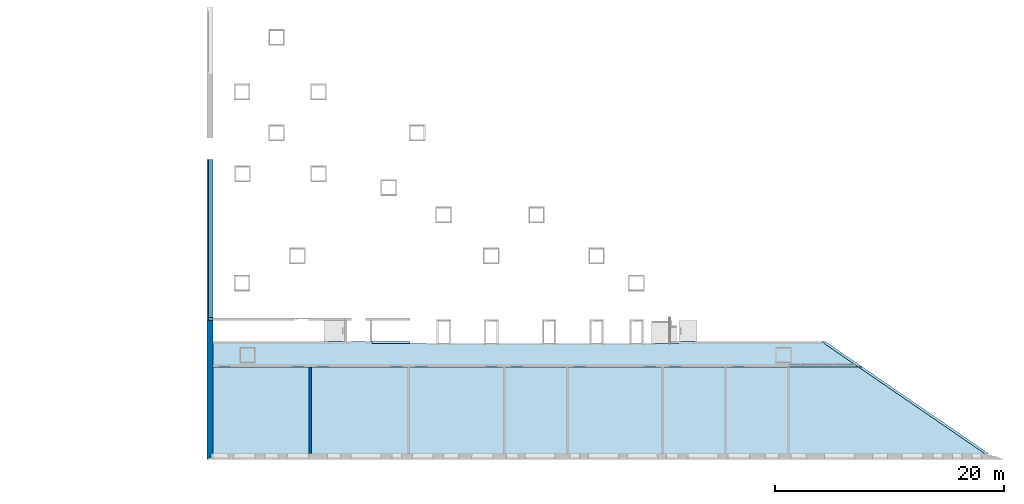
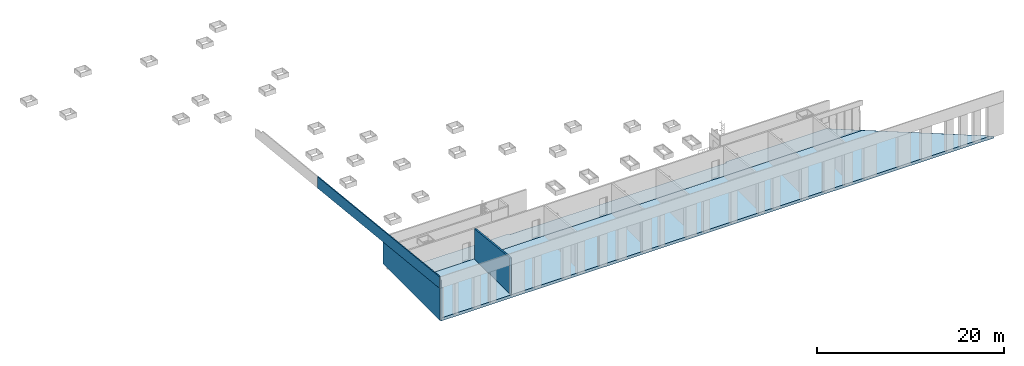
# One storey, part 4 of 23: 3 walls, 2 slabs.
"""IFC2X3 building model written with IfcOpenShell, lengths in millimetres."""

from ifc_helpers import new_model, entity, si_unit, converted_unit, derived_unit, money_unit, direction, frame, origin_with_axes, place, context, subcontext, project, spatial, faceted_brep, material, material_list, type_object, element, save


model = new_model("IFC2X3")

# Units and contexts
model_context = context("Model", 3, precision=0.01, world=origin_with_axes(), true_north=direction((0.0, 1.0)))
body_context = subcontext(model_context, "Body", "Model", "MODEL_VIEW")
ifc_project = project(units=[si_unit("LENGTHUNIT", "METRE", prefix="MILLI"), si_unit("AREAUNIT", "SQUARE_METRE"), si_unit("VOLUMEUNIT", "CUBIC_METRE"), converted_unit("PLANEANGLEUNIT", "DEGREE", entity("IfcPlaneAngleMeasure", 0.0174532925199), si_unit("PLANEANGLEUNIT", "RADIAN"), dimensions=[0, 0, 0, 0, 0, 0, 0]), si_unit("SOLIDANGLEUNIT", "STERADIAN"), money_unit("EUR"), converted_unit("TIMEUNIT", "Year", entity("IfcTimeMeasure", 31556926.0), si_unit("TIMEUNIT", "SECOND"), dimensions=[0, 0, 1, 0, 0, 0, 0]), si_unit("MASSUNIT", "GRAM", prefix="KILO"), si_unit("THERMODYNAMICTEMPERATUREUNIT", "DEGREE_CELSIUS"), si_unit("LUMINOUSINTENSITYUNIT", "LUMEN"), si_unit("ENERGYUNIT", "JOULE", prefix="MEGA"), derived_unit("THERMALCONDUCTANCEUNIT", [(si_unit("POWERUNIT", "WATT"), 1), (si_unit("LENGTHUNIT", "METRE"), -1), (si_unit("THERMODYNAMICTEMPERATUREUNIT", "KELVIN"), -1)]), derived_unit("SPECIFICHEATCAPACITYUNIT", [(si_unit("ENERGYUNIT", "JOULE"), 1), (si_unit("MASSUNIT", "GRAM", prefix="KILO"), -1), (si_unit("THERMODYNAMICTEMPERATUREUNIT", "KELVIN"), -1)]), derived_unit("MASSDENSITYUNIT", [(si_unit("MASSUNIT", "GRAM", prefix="KILO"), 1), (si_unit("VOLUMEUNIT", "CUBIC_METRE"), -1)])], contexts=[model_context])

# Site, building, storey
site_placement = place(None, origin_with_axes())
site = spatial("IfcSite", under=ifc_project, at=site_placement, Name="L.Koidula tn 11b", CompositionType="ELEMENT")
building_placement = place(site_placement, origin_with_axes())
building = spatial("IfcBuilding", under=site, at=building_placement, Name="Rakvere Riigigümnaasium", CompositionType="ELEMENT")
storey_placement = place(building_placement, frame((0.0, 0.0, 7440.0), z_axis=(0.0, 0.0, 1.0), x_axis=(1.0, 0.0, 0.0)))
storey = spatial("IfcBuildingStorey", under=building, at=storey_placement, Name="3.korrus +7,44", CompositionType="ELEMENT", Elevation=7440.0)

# Slabs
ifc_material_1 = material(Name="Parkett")
ifc_material_2 = material(Name="Betoon")
ifc_material_3 = material(Name="Mürasummutus vill")
ifc_material_4 = material(Name="Betoon õõnespaneel")
ifc_material_list_1 = material_list([ifc_material_1, ifc_material_2, ifc_material_3, ifc_material_4])
slab_type_1 = type_object("IfcSlabType", Name="VL-01 395", PredefinedType="NOTDEFINED")
slab_1_placement = place(storey_placement, frame((92196.3481277, 13080.4543717, 0.0), z_axis=(0.0, 0.0, 1.0), x_axis=(1.0, 0.0, 0.0)))
element("IfcSlab", 1, at=slab_1_placement, inside=storey, type_object=slab_type_1, material=ifc_material_list_1, Name="Vahelagi", PredefinedType="NOTDEFINED", context=body_context, shape_type="Brep", body=[
    faceted_brep([(-353.567938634, 0.0, -10.0), (-353.567938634, 0.0, 0.0), (-56896.3480918, 0.0, 0.0), (-56896.3480918, 0.0, -10.0), (-3590.33016853, 2220.02536922, 0.0), (-3590.33016853, 2220.02536922, -10.0), (-16006.365986, 2220.01632413, 0.0), (-16006.3659216, 2020.02395291, 0.0), (-38896.3481322, 2020.00113962, 0.0), (-38896.3481322, 2020.02415849, 0.0), (-39496.348134, 2020.02415849, 0.0), (-39696.348134, 2020.02415841, 0.0), (-42796.3481341, 2020.02415849, 0.0), (-42796.3481341, 2219.27740486, 0.0), (-44996.3481399, 2219.27740486, 0.0), (-44996.3481399, 2220.02143424, 0.0), (-56696.3480756, 2220.02415849, 0.0), (-56696.3480756, 2020.02415849, 0.0), (-56896.3480756, 2020.02415849, 0.0), (-56896.3480756, 2020.02415849, -10.0), (-56696.3480756, 2020.02415849, -10.0), (-56696.3480756, 2220.02415849, -10.0), (-44996.3481399, 2220.02143424, -10.0), (-44996.3481399, 2219.27740486, -10.0), (-42796.3481341, 2219.27740486, -10.0), (-42796.3481341, 2020.02415849, -10.0), (-39696.348134, 2020.02415841, -10.0), (-39496.348134, 2020.02415849, -10.0), (-38896.3481322, 2020.02415849, -10.0), (-38896.3481322, 2020.00113962, -10.0), (-16006.3659216, 2020.02395291, -10.0), (-16006.365986, 2220.01632413, -10.0)], [[[0, 1, 2, 3]], [[4, 1, 0, 5]], [[1, 4, 6, 7, 8, 9, 10, 11, 12, 13, 14, 15, 16, 17, 18, 2]], [[18, 19, 3, 2]], [[5, 0, 3, 19, 20, 21, 22, 23, 24, 25, 26, 27, 28, 29, 30, 31]], [[4, 5, 31, 6]], [[31, 30, 7, 6]], [[7, 30, 29, 8]], [[29, 28, 9, 8]], [[27, 10, 9, 28]], [[26, 11, 10, 27]], [[12, 11, 26, 25]], [[24, 13, 12, 25]], [[13, 24, 23, 14]], [[23, 22, 15, 14]], [[22, 21, 16, 15]], [[17, 16, 21, 20]], [[18, 17, 20, 19]]]),
    faceted_brep([(-353.567938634, 0.0, -100.0), (-353.567938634, 0.0, -10.0), (-56896.3480918, 0.0, -10.0), (-56896.3480918, 0.0, -100.0), (-3590.33016853, 2220.02536922, -10.0), (-3590.33016853, 2220.02536922, -100.0), (-16006.365986, 2220.01632413, -10.0), (-16006.3659216, 2020.02395291, -10.0), (-38896.3481322, 2020.00113962, -10.0), (-38896.3481322, 2020.02415849, -10.0), (-39496.348134, 2020.02415849, -10.0), (-39696.348134, 2020.02415841, -10.0), (-42796.3481341, 2020.02415849, -10.0), (-42796.3481341, 2219.27740486, -10.0), (-44996.3481399, 2219.27740486, -10.0), (-44996.3481399, 2220.02143424, -10.0), (-56696.3480756, 2220.02415849, -10.0), (-56696.3480756, 2020.02415849, -10.0), (-56896.3480756, 2020.02415849, -10.0), (-56896.3480756, 2020.02415849, -100.0), (-56696.3480756, 2020.02415849, -100.0), (-56696.3480756, 2220.02415849, -100.0), (-44996.3481399, 2220.02143424, -100.0), (-44996.3481399, 2219.27740486, -100.0), (-42796.3481341, 2219.27740486, -100.0), (-42796.3481341, 2020.02415849, -100.0), (-39696.348134, 2020.02415842, -100.0), (-39496.348134, 2020.02415849, -100.0), (-38896.3481322, 2020.02415849, -100.0), (-38896.3481322, 2020.00113962, -100.0), (-16006.3659216, 2020.02395291, -100.0), (-16006.365986, 2220.01632413, -100.0)], [[[0, 1, 2, 3]], [[4, 1, 0, 5]], [[1, 4, 6, 7, 8, 9, 10, 11, 12, 13, 14, 15, 16, 17, 18, 2]], [[18, 19, 3, 2]], [[5, 0, 3, 19, 20, 21, 22, 23, 24, 25, 26, 27, 28, 29, 30, 31]], [[4, 5, 31, 6]], [[31, 30, 7, 6]], [[7, 30, 29, 8]], [[29, 28, 9, 8]], [[27, 10, 9, 28]], [[26, 11, 10, 27]], [[12, 11, 26, 25]], [[24, 13, 12, 25]], [[13, 24, 23, 14]], [[23, 22, 15, 14]], [[22, 21, 16, 15]], [[17, 16, 21, 20]], [[18, 17, 20, 19]]]),
    faceted_brep([(-353.567938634, 0.0, -130.0), (-353.567938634, 0.0, -100.0), (-56896.3480918, 0.0, -100.0), (-56896.3480918, 0.0, -130.0), (-3590.33016853, 2220.02536922, -100.0), (-3590.33016853, 2220.02536922, -130.0), (-16006.365986, 2220.01632413, -100.0), (-16006.3659216, 2020.02395291, -100.0), (-38896.3481322, 2020.00113962, -100.0), (-38896.3481322, 2020.02415849, -100.0), (-39496.348134, 2020.02415849, -100.0), (-39696.348134, 2020.02415842, -100.0), (-42796.3481341, 2020.02415849, -100.0), (-42796.3481341, 2219.27740486, -100.0), (-44996.3481399, 2219.27740486, -100.0), (-44996.3481399, 2220.02143424, -100.0), (-56696.3480756, 2220.02415849, -100.0), (-56696.3480756, 2020.02415849, -100.0), (-56896.3480756, 2020.02415849, -100.0), (-56896.3480756, 2020.02415849, -130.0), (-56696.3480756, 2020.02415849, -130.0), (-56696.3480756, 2220.02415849, -130.0), (-44996.3481399, 2220.02143424, -130.0), (-44996.3481399, 2219.27740486, -130.0), (-42796.3481341, 2219.27740486, -130.0), (-42796.3481341, 2020.02415849, -130.0), (-39696.348134, 2020.02415842, -130.0), (-39496.348134, 2020.02415849, -130.0), (-38896.3481322, 2020.02415849, -130.0), (-38896.3481322, 2020.00113962, -130.0), (-16006.3659216, 2020.02395291, -130.0), (-16006.365986, 2220.01632413, -130.0)], [[[0, 1, 2, 3]], [[4, 1, 0, 5]], [[1, 4, 6, 7, 8, 9, 10, 11, 12, 13, 14, 15, 16, 17, 18, 2]], [[18, 19, 3, 2]], [[5, 0, 3, 19, 20, 21, 22, 23, 24, 25, 26, 27, 28, 29, 30, 31]], [[4, 5, 31, 6]], [[31, 30, 7, 6]], [[7, 30, 29, 8]], [[29, 28, 9, 8]], [[27, 10, 9, 28]], [[26, 11, 10, 27]], [[12, 11, 26, 25]], [[24, 13, 12, 25]], [[13, 24, 23, 14]], [[23, 22, 15, 14]], [[22, 21, 16, 15]], [[17, 16, 21, 20]], [[18, 17, 20, 19]]]),
    faceted_brep([(-56696.3480756, 2220.02415849, -130.0), (-44996.3481399, 2220.02143424, -130.0), (-44996.3481399, 2220.02143424, -395.0), (-56696.3480756, 2220.02415849, -395.0), (-56696.3480756, 2020.02415849, -130.0), (-56896.3480756, 2020.02415849, -130.0), (-56896.3480918, 0.0, -130.0), (0.0, 0.0, -130.0), (-3236.76716374, 2220.02562679, -130.0), (-16006.365986, 2220.01632413, -130.0), (-16006.3659216, 2020.02395291, -130.0), (-38896.3481322, 2020.00113962, -130.0), (-38896.3481322, 2020.02415849, -130.0), (-39496.348134, 2020.02415849, -130.0), (-39496.348134, 2219.27740486, -130.0), (-44996.3481399, 2219.27740486, -130.0), (-44996.3481399, 2219.27740486, -395.0), (-56896.3480756, 2020.02415849, -395.0), (-56696.3480756, 2020.02415849, -395.0), (-39496.348134, 2219.27740486, -395.0), (-39496.348134, 2020.02415849, -395.0), (-38896.3481322, 2020.02415849, -395.0), (-38896.3481322, 2020.00113962, -395.0), (-16006.3659216, 2020.02395291, -395.0), (-16006.365986, 2220.01632413, -395.0), (-3236.76716374, 2220.02562679, -395.0), (0.0, 0.0, -395.0), (-56896.3480918, 0.0, -395.0)], [[[0, 1, 2, 3]], [[0, 4, 5, 6, 7, 8, 9, 10, 11, 12, 13, 14, 15, 1]], [[1, 15, 16, 2]], [[17, 18, 3, 2, 16, 19, 20, 21, 22, 23, 24, 25, 26, 27]], [[18, 4, 0, 3]], [[17, 5, 4, 18]], [[6, 5, 17, 27]], [[7, 6, 27, 26]], [[8, 7, 26, 25]], [[9, 8, 25, 24]], [[10, 9, 24, 23]], [[11, 10, 23, 22]], [[12, 11, 22, 21]], [[13, 12, 21, 20]], [[14, 13, 20, 19]], [[15, 14, 19, 16]]]),
])
ifc_material_5 = material(Name="PVC-klassid")
ifc_material_6 = material(Name="Betoon - pealevalu")
ifc_material_list_2 = material_list([ifc_material_5, ifc_material_6, ifc_material_2, ifc_material_3, ifc_material_4])
slab_type_2 = type_object("IfcSlabType", Name="VL-01-1 395", PredefinedType="NOTDEFINED")
slab_2_placement = place(storey_placement, frame((35299.9999991, 5300.45553887, 0.0), z_axis=(0.0, 0.0, 1.0), x_axis=(1.0, 0.0, 0.0)))
element("IfcSlab", 2, at=slab_2_placement, inside=storey, type_object=slab_type_2, material=ifc_material_list_2, Name="Vahelagi", PredefinedType="NOTDEFINED", context=body_context, shape_type="Brep", body=[
    faceted_brep([(67885.9190927, 0.0, -5.0), (56542.78019, 7779.99883287, -5.0), (56542.78019, 7779.99883287, 0.0), (67885.9190927, 0.0, 0.0), (0.0, 0.0, -5.0), (3.68757326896e-05, 7779.99883287, -5.0), (3.68757326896e-05, 7779.99883287, 0.0), (0.0, 0.0, 0.0)], [[[0, 1, 2, 3]], [[1, 0, 4, 5]], [[2, 1, 5, 6]], [[2, 6, 7, 3]], [[0, 3, 7, 4]], [[5, 4, 7, 6]]]),
    faceted_brep([(67885.9190927, 0.0, -10.0), (56542.78019, 7779.99883287, -10.0), (56542.78019, 7779.99883287, -5.0), (67885.9190927, 0.0, -5.0), (0.0, 0.0, -10.0), (3.68757326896e-05, 7779.99883287, -10.0), (3.68757326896e-05, 7779.99883287, -5.0), (0.0, 0.0, -5.0)], [[[0, 1, 2, 3]], [[1, 0, 4, 5]], [[2, 1, 5, 6]], [[2, 6, 7, 3]], [[0, 3, 7, 4]], [[5, 4, 7, 6]]]),
    faceted_brep([(67885.9190927, 0.0, -100.0), (56542.78019, 7779.99883287, -100.0), (56542.78019, 7779.99883287, -10.0), (67885.9190927, 0.0, -10.0), (0.0, 0.0, -100.0), (3.68757326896e-05, 7779.99883287, -100.0), (3.68757326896e-05, 7779.99883287, -10.0), (0.0, 0.0, -10.0)], [[[0, 1, 2, 3]], [[1, 0, 4, 5]], [[2, 1, 5, 6]], [[2, 6, 7, 3]], [[0, 3, 7, 4]], [[5, 4, 7, 6]]]),
    faceted_brep([(67885.9190928, 0.0, -130.0), (56542.78019, 7779.99883287, -130.0), (56542.78019, 7779.99883287, -100.0), (67885.9190927, 0.0, -100.0), (0.0, 0.0, -130.0), (3.68757326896e-05, 7779.99883287, -130.0), (3.68757326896e-05, 7779.99883287, -100.0), (0.0, 0.0, -100.0)], [[[0, 1, 2, 3]], [[1, 0, 4, 5]], [[2, 1, 5, 6]], [[2, 6, 7, 3]], [[0, 3, 7, 4]], [[5, 4, 7, 6]]]),
    faceted_brep([(0.0, 0.0, -130.0), (0.0, 0.0, -395.0), (68239.4805918, 0.0, -395.0), (68239.4805918, 0.0, -130.0), (3.68757326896e-05, 7779.99883287, -130.0), (3.68757326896e-05, 7779.99883287, -395.0), (56896.3481287, 7779.99883287, -395.0), (56896.3481287, 7779.99883287, -130.0)], [[[0, 1, 2, 3]], [[4, 5, 1, 0]], [[2, 1, 5, 6]], [[3, 2, 6, 7]], [[4, 0, 3, 7]], [[7, 6, 5, 4]]]),
])

# Walls
ifc_material_7 = material(Name="Betoon-element")
ifc_material_8 = material(Name="FF-PIR soojustus")
ifc_material_9 = material(Name="Tuuletõke (RKL Facade)")
ifc_material_10 = material(Name="Salto-roovitus")
ifc_material_11 = material(Name="Puit-fassaad")
ifc_material_list_3 = material_list([ifc_material_7, ifc_material_8, ifc_material_9, ifc_material_10, ifc_material_10, ifc_material_11])
wall_type_1 = type_object("IfcWallType", Name="VS-01 514", PredefinedType="NOTDEFINED")
wall_1_placement = place(storey_placement, frame((35500.0000521, 17100.4555216, 0.0), z_axis=(0.0, 0.0, 1.0), x_axis=(0.0, -1.0, 0.0)))
element("IfcWall", 3, at=wall_1_placement, inside=storey, type_object=wall_type_1, material=ifc_material_list_3, Name="Välissein", context=body_context, shape_type="Brep", body=[
    faceted_brep([(0.0, -200.0, 2881.73975441), (0.0, 0.0, 2881.73975441), (0.0, 0.0, 0.0), (0.0, -200.0, 0.0), (11599.9999827, 4.11310452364e-06, 4100.94888168), (11599.9999827, -200.0, 4100.94888168), (11599.9999827, 0.0, 0.0), (11599.9999827, -200.0, 0.0)], [[[0, 1, 2, 3]], [[4, 1, 0, 5]], [[1, 4, 6, 2]], [[3, 2, 6, 7]], [[5, 0, 3, 7]], [[4, 5, 7, 6]]]),
    faceted_brep([(0.0, -380.0, 2881.73975441), (0.0, -200.0, 2881.73975441), (0.0, -200.0, 0.0), (0.0, -380.0, 0.0), (11979.9999827, -200.0, 4140.88849108), (11979.9999827, -380.0, 4140.88849108), (11979.9999827, -200.0, 0.0), (11979.9999827, -380.0, 0.0)], [[[0, 1, 2, 3]], [[4, 1, 0, 5]], [[1, 4, 6, 2]], [[6, 7, 3, 2]], [[5, 0, 3, 7]], [[4, 5, 7, 6]]]),
    faceted_brep([(0.0, -430.0, 2881.73975441), (0.0, -380.0, 2881.73975441), (0.0, -380.0, 0.0), (0.0, -430.0, 0.0), (12029.9999827, -380.0, 4146.14370284), (12029.9999827, -430.0, 4146.14370284), (12029.9999827, -380.0, 0.0), (12029.9999827, -430.0, 0.0)], [[[0, 1, 2, 3]], [[4, 1, 0, 5]], [[1, 4, 6, 2]], [[3, 2, 6, 7]], [[5, 0, 3, 7]], [[4, 5, 7, 6]]]),
    faceted_brep([(0.0, -462.0, 2881.73975441), (0.0, -430.0, 2881.73975441), (0.0, -430.0, 0.0), (0.0, -462.0, 0.0), (12061.9999827, -430.0, 4149.50703837), (12061.9999827, -462.0, 4149.50703837), (12061.9999827, -430.0, 0.0), (12061.9999827, -462.0, 0.0)], [[[0, 1, 2, 3]], [[4, 1, 0, 5]], [[1, 4, 6, 2]], [[2, 6, 7, 3]], [[5, 0, 3, 7]], [[4, 5, 7, 6]]]),
    faceted_brep([(0.0, -494.0, 2881.73975441), (0.0, -462.0, 2881.73975441), (0.0, -462.0, 0.0), (0.0, -494.0, 0.0), (12093.9999827, -462.0, 4152.8703739), (12093.9999827, -494.0, 4152.8703739), (12093.9999827, -462.0, 0.0), (12093.9999827, -494.0, 0.0)], [[[0, 1, 2, 3]], [[4, 1, 0, 5]], [[1, 4, 6, 2]], [[2, 6, 7, 3]], [[5, 0, 3, 7]], [[4, 5, 7, 6]]]),
    faceted_brep([(0.0, -514.0, 2881.73975441), (0.0, -494.0, 2881.73975441), (0.0, -494.0, 0.0), (0.0, -514.0, 0.0), (12113.9999827, -494.0, 4154.9724586), (12113.9999827, -514.0, 4154.9724586), (12113.9999827, -494.0, 0.0), (12113.9999827, -514.0, 0.0)], [[[0, 1, 2, 3]], [[4, 1, 0, 5]], [[1, 4, 6, 2]], [[2, 6, 7, 3]], [[5, 0, 3, 7]], [[4, 5, 7, 6]]]),
])
ifc_material_12 = material(Name="Roovid-puit")
ifc_material_list_4 = material_list([ifc_material_7, ifc_material_8, ifc_material_9, ifc_material_12, ifc_material_12, ifc_material_12])
wall_type_2 = type_object("IfcWallType", Name="VS-09-1 526", PredefinedType="NOTDEFINED")
wall_2_placement = place(storey_placement, frame((35500.0000521, 31167.424765, 1070.29900037), z_axis=(0.0, 0.0, 1.0), x_axis=(0.0, -1.0, 0.0)))
element("IfcWall", 4, at=wall_2_placement, inside=storey, type_object=wall_type_2, material=ifc_material_list_4, Name="Välissein", context=body_context, shape_type="Brep", body=[
    faceted_brep([(0.0, -200.0, 332.942709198), (0.0, -200.0, 923.393341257), (0.0, 0.0, 923.390305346), (0.0, 0.0, 332.942709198), (13786.2564718, -199.999999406, 2427.68989319), (13786.2564718, -199.999999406, 2372.3872698), (25666.9692262, -200.000001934, 3030.6498813), (25666.9692262, -200.000000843, 3676.4034403), (13786.2564718, 0.0, 2372.38423388), (13786.2564718, 0.0, 2427.68686302), (25666.9692262, -4.79371209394e-06, 3676.40040439), (25666.9692262, -6.86459600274e-06, 3089.70099963), (25666.9692262, -6.86459600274e-06, 3030.6498813)], [[[0, 1, 2, 3]], [[4, 5, 1, 0, 6, 7]], [[5, 8, 2, 1]], [[2, 8, 9, 10, 11, 12, 3]], [[3, 12, 6, 0]], [[5, 4, 9, 8]], [[7, 6, 12, 11, 10]], [[10, 9, 4, 7]]]),
    faceted_brep([(0.0, -380.0, 332.942709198), (-4.0692782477e-08, -380.025875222, 923.396073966), (0.0, -200.0, 923.393341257), (0.0, -200.0, 332.942709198), (13786.2564718, -380.025799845, 2372.39000251), (13786.2564718, -200.0, 2372.3872698), (13786.2564718, -200.0, 2427.68989319), (25866.9692262, -200.000003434, 3697.42428714), (25866.9692262, -200.000007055, 3089.70099963), (25666.9692262, -200.000007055, 3089.70099963), (25666.9692262, -200.000007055, 3030.6498813), (25666.9692262, -380.000016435, 3030.6498813), (25666.9692262, -380.000016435, 3089.70099963), (13786.2564718, -380.025799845, 2427.69262051), (25866.9692261, -380.01147948, 3697.42701963), (25866.9692262, -380.000016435, 3089.70099963)], [[[0, 1, 2, 3]], [[0, 4, 1]], [[4, 5, 2, 1]], [[2, 5, 6, 7, 8, 9, 10, 3]], [[10, 11, 0, 3]], [[12, 4, 0]], [[4, 13, 6, 5]], [[7, 6, 13, 14]], [[8, 7, 14, 15]], [[15, 12, 9, 8]], [[9, 12, 11, 10]], [[12, 0, 11]], [[4, 12, 14]], [[4, 14, 13]], [[14, 12, 15]]]),
    faceted_brep([(26046.9528542, -380.011479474, 4390.8371114), (26046.9528542, -380.000001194, 4390.8371114), (26046.9528542, -380.0, 3716.34406084), (26046.9528542, -380.011479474, 3716.34406102), (26046.9692262, -380.00000328, 4390.83883216), (0.0, -380.016189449, 1653.19205066), (0.0, -398.000624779, 1653.19205066), (26046.9692262, -398.000624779, 4390.83883216), (26046.9692262, -380.000016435, 3089.70099963), (25666.9692262, -380.000016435, 3089.70099963), (25666.9692262, -380.000016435, 3030.6498813), (0.0, -380.0, 332.942709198), (0.0, -380.0, 1245.15872274), (13786.2564717, -380.00000025, 2694.15265126), (13786.2532669, -380.0, 2427.69262034), (13786.2532669, -380.011479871, 2427.69262051), (13786.2564717, -380.020971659, 2694.15265158), (0.0, -380.021018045, 1245.15872306), (0.0, -430.0, 332.942709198), (0.0, -430.0, 1828.76509444), (0.0, -398.000624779, 1828.76509444), (26046.9692262, -398.000624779, 4566.41187595), (26046.9692262, -430.000000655, 4566.41187595), (26046.9692262, -430.000016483, 3089.70099963), (25666.9692262, -430.000016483, 3089.70099963), (25666.9692262, -430.000016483, 3030.6498813)], [[[0, 1, 2, 3]], [[4, 1, 0, 5, 6, 7]], [[1, 4, 8, 9, 10, 11, 12, 13, 14, 2]], [[2, 14, 15, 3]], [[5, 0, 3, 15, 16, 17]], [[6, 5, 17, 12, 11, 18, 19, 20]], [[6, 20, 21, 7]], [[7, 21, 22, 23, 8, 4]], [[23, 24, 9, 8]], [[9, 24, 25, 10]], [[10, 25, 18, 11]], [[16, 13, 12, 17]], [[14, 13, 16, 15]], [[25, 24, 23, 22, 19, 18]], [[21, 20, 19, 22]]]),
    faceted_brep([(0.0, -462.0, 332.942709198), (0.0, -462.0, 1828.76509444), (0.0, -430.0, 1828.76509444), (0.0, -430.0, 332.942709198), (26096.9692262, -462.0, 3089.70099963), (26096.9692262, -462.0, 4571.66708771), (25666.9692262, -462.0, 3030.6498813), (25666.9692262, -462.0, 3089.70099963), (26096.9692262, -430.000000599, 4571.66708771), (26096.9692262, -430.000016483, 3089.70099963), (25666.9692262, -430.000016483, 3089.70099963), (25666.9692262, -430.000016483, 3030.6498813)], [[[0, 1, 2, 3]], [[4, 5, 1, 0, 6, 7]], [[5, 8, 2, 1]], [[3, 2, 8, 9, 10, 11]], [[11, 6, 0, 3]], [[9, 8, 5, 4]], [[10, 7, 6, 11]], [[4, 7, 10, 9]]]),
    faceted_brep([(0.0, -494.0, 332.942709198), (0.0, -494.0, 1828.76509444), (0.0, -462.0, 1828.76509444), (0.0, -462.0, 332.942709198), (26096.9692262, -494.0, 3089.70099963), (26096.9692262, -494.0, 4571.66708771), (25666.9692262, -494.0, 3030.6498813), (25666.9692262, -494.0, 3089.70099963), (26096.9692262, -462.0, 4571.66708771), (26096.9692262, -462.0, 3089.70099963), (25666.9692262, -462.0, 3089.70099963), (25666.9692262, -462.0, 3030.6498813)], [[[0, 1, 2, 3]], [[4, 5, 1, 0, 6, 7]], [[5, 8, 2, 1]], [[3, 2, 8, 9, 10, 11]], [[11, 6, 0, 3]], [[9, 8, 5, 4]], [[10, 7, 6, 11]], [[4, 7, 10, 9]]]),
    faceted_brep([(0.0, -526.0, 332.942709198), (0.0, -526.0, 1828.76509444), (0.0, -494.0, 1828.76509444), (0.0, -494.0, 332.942709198), (26096.9692262, -526.0, 3089.70099963), (26096.9692262, -526.0, 4571.66708771), (25666.9692262, -526.0, 3030.6498813), (25666.9692262, -526.0, 3089.70099963), (26096.9692262, -494.0, 4571.66708771), (26096.9692262, -494.0, 3089.70099963), (25666.9692262, -494.0, 3089.70099963), (25666.9692262, -494.0, 3030.6498813)], [[[0, 1, 2, 3]], [[4, 5, 1, 0, 6, 7]], [[5, 8, 2, 1]], [[3, 2, 8, 9, 10, 11]], [[11, 6, 0, 3]], [[9, 8, 5, 4]], [[10, 7, 6, 11]], [[4, 7, 10, 9]]]),
])
ifc_material_13 = material(Name="Krohv")
ifc_material_14 = material(Name="Silikaat plokk")
ifc_material_list_5 = material_list([ifc_material_13, ifc_material_14, ifc_material_13])
wall_type_3 = type_object("IfcWallType", Name="SS-04 200", PredefinedType="NOTDEFINED")
wall_3_placement = place(storey_placement, frame((44090.0000025, 5500.45553887, 0.0), z_axis=(0.0, 0.0, 1.0), x_axis=(0.0, 1.0, 0.0)))
element("IfcWall", 5, at=wall_3_placement, inside=storey, type_object=wall_type_3, material=ifc_material_list_5, Name="Sisesein", context=body_context, shape_type="Brep", body=[
    faceted_brep([(7569.99883287, 190.0, 3950.9329665), (7569.99883287, 180.0, 3950.93281471), (7569.99883287, 180.0, 0.0), (7569.99883287, 190.0, 0.0), (443.100556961, 180.000003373, 4700.0), (443.102001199, 189.999999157, 4700.0), (0.0, 180.000003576, 4700.0), (0.0, 180.000003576, 4160.0), (10.0, 180.0, 4160.0), (10.0, 180.0, 0.0), (10.0, 190.0, 0.0), (10.0, 190.0, 4160.0), (0.0, 189.999999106, 4160.0), (0.0, 189.999999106, 4700.0)], [[[0, 1, 2, 3]], [[4, 1, 0, 5]], [[1, 4, 6, 7, 8, 9, 2]], [[2, 9, 10, 3]], [[5, 0, 3, 10, 11, 12, 13]], [[4, 5, 13, 6]], [[13, 12, 7, 6]], [[11, 8, 7, 12]], [[10, 9, 8, 11]]]),
    faceted_brep([(7579.99883287, 180.0, 3949.88177236), (7579.99883287, 0.0, 3949.87904004), (7579.99883287, 0.0, 0.0), (7579.99883287, 180.0, 0.0), (443.074560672, 3.37261241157e-06, 4700.0), (443.100556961, 180.000003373, 4700.0), (0.0, 3.57628238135e-06, 4700.0), (0.0, 0.0, 0.0), (0.0, 180.0, 0.0), (0.0, 180.000003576, 4700.0)], [[[0, 1, 2, 3]], [[4, 1, 0, 5]], [[1, 4, 6, 7, 2]], [[2, 7, 8, 3]], [[5, 0, 3, 8, 9]], [[4, 5, 9, 6]], [[9, 8, 7, 6]]]),
    faceted_brep([(7569.99883287, 0.0, 3950.93008239), (7569.99883287, -10.0, 3950.92993059), (7569.99883287, -10.0, 0.0), (7569.99883287, 0.0, 0.0), (443.073116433, -10.0, 4700.0), (443.074560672, 3.37261241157e-06, 4700.0), (0.0, -10.0, 4700.0), (0.0, -10.0, 4160.0), (10.0, -10.0, 4160.0), (10.0, -10.0, 0.0), (10.0, 0.0, 0.0), (10.0, 0.0, 4160.0), (0.0, 3.57628948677e-06, 4160.0), (0.0, 3.57628238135e-06, 4700.0)], [[[0, 1, 2, 3]], [[4, 1, 0, 5]], [[1, 4, 6, 7, 8, 9, 2]], [[2, 9, 10, 3]], [[5, 0, 3, 10, 11, 12, 13]], [[4, 5, 13, 6]], [[13, 12, 7, 6]], [[11, 8, 7, 12]], [[10, 9, 8, 11]]]),
])

save(model, "model.ifc")
